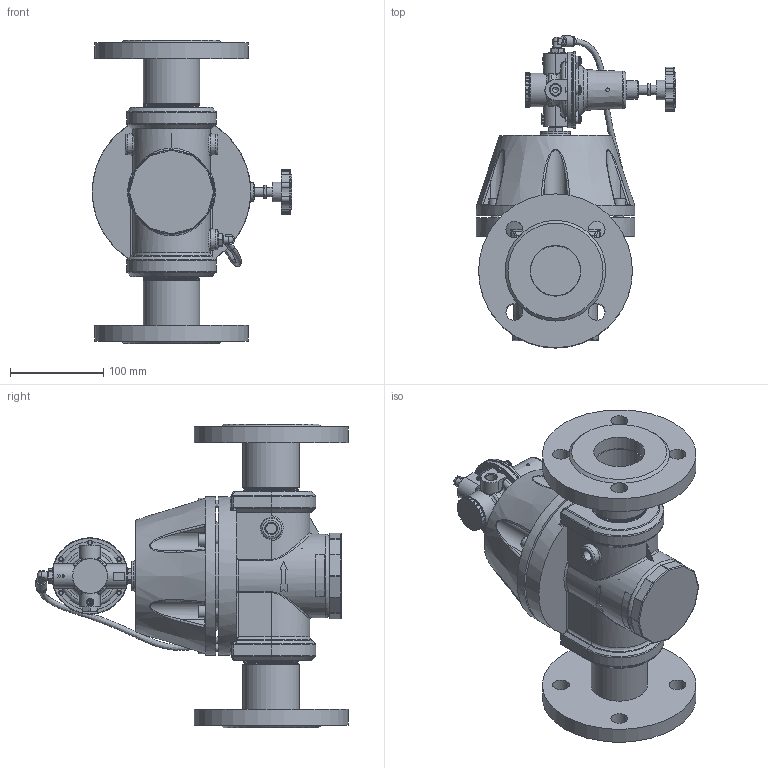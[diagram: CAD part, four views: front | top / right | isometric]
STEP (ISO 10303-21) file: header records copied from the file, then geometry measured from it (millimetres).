
FILE_DESCRIPTION(/* description */ (''),/* implementation_level */ '2;1');
FILE_NAME(/* name */ 'B-R119-16C-D-F31_01.step',/* time_stamp */ '2022-11-25T11:58:31+01:00',/* author */ (''),/* organization */ (''),/* preprocessor_version */ 'ST-DEVELOPER v19.2',/* originating_system */ 'Autodesk Translation Framework v11.17.0.187',/* authorisation */ '');
FILE_SCHEMA (('AUTOMOTIVE_DESIGN { 1 0 10303 214 3 1 1 }'));
Products named in the file (13): B-R119-16C-D_R15_01; B-R119-16J; ISO 4762 M8 x 12; ISO 4762 M8 x 25; ISO 4762 M8 x 20; doppelnippel-1-4 v2; 754.014-6 v1; B-R15-02x v4; 0DE50309_7; Komponente12; VSVA-5040-F31N; VSVA-5040-F31N_1; Unbenannt v1
Assembly tree (18 placements, depth 3):
  B-R119-16C-D_R15_01
    B-R119-16J
    ISO 4762 M8 x 12
    ISO 4762 M8 x 25
    ISO 4762 M8 x 20  x5
    doppelnippel-1-4 v2
    754.014-6 v1  x2
    B-R15-02x v4
      0DE50309_7
    Komponente12
    VSVA-5040-F31N
      Unbenannt v1
    VSVA-5040-F31N_1
      Unbenannt v1
Bounding box: 214 x 334.8 x 326 mm (x, y, z)
Volume: 4045912.8 mm3; surface area: 460516.5 mm2
Topology: 20 solids, 23 shells, 1607 faces, 4090 edges, 2587 vertices
Faces by surface type: plane 587, cylinder 504, cone 166, bspline 160, torus 154, sphere 36
Full cylindrical faces by diameter (mm): 0.5 x1, 0.85 x12, 1 x4, 1.2 x1, 4 x1, 4.567 x6, 5 x15, 5.3 x3, 5.5 x1, 5.8 x6, 6 x5, 7 x1, 7.1 x3, 7.2 x1, 8 x9, 9 x18, 9.9 x3, 10 x2, 10.5 x2, 11 x5, 11.1 x3, 11.5 x9, 11.8 x3, 13 x7, 13.157 x3, 16 x1, 18 x11, 20 x1, 21 x1, 29 x1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
Entity records: 73441 total; most frequent: CARTESIAN_POINT 38055, ORIENTED_EDGE 7394, DIRECTION 7329, EDGE_CURVE 3697, AXIS2_PLACEMENT_3D 3004, VERTEX_POINT 2332, EDGE_LOOP 1623, CIRCLE 1580
